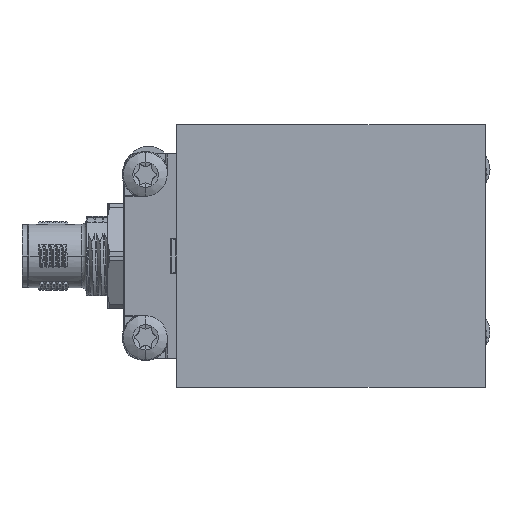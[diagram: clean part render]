
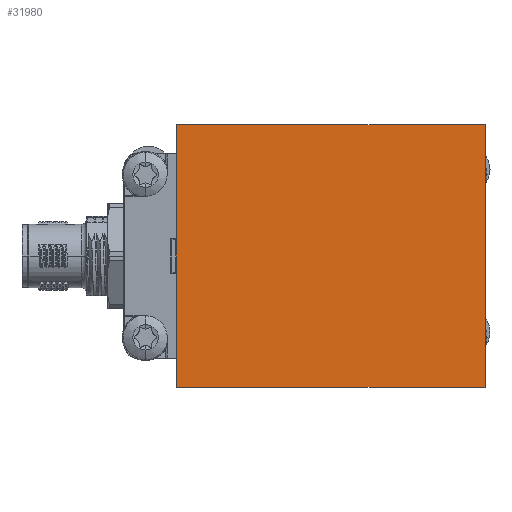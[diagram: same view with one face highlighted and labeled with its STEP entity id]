
A CAD part, front view. The second image highlights one B-rep face of the part: STEP entity #31980.
In plain terms, the highlighted planar face has unit normal (0, -1, 0).
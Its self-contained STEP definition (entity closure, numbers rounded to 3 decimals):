
#10841 = EDGE_CURVE ( 'NONE', #48390, #133676, #137222, .T. ) ;
#22002 = DIRECTION ( 'NONE',  ( 1., 0., 0. ) ) ;
#29240 = VECTOR ( 'NONE', #22002, 1000. ) ;
#31980 = ADVANCED_FACE ( 'NONE', ( #147541 ), #114185, .F. ) ;
#42443 = VECTOR ( 'NONE', #156688, 1000. ) ;
#45114 = DIRECTION ( 'NONE',  ( 0., 0., -1. ) ) ;
#48390 = VERTEX_POINT ( 'NONE', #177795 ) ;
#49680 = EDGE_CURVE ( 'NONE', #59518, #70307, #76582, .T. ) ;
#53101 = EDGE_LOOP ( 'NONE', ( #226360, #182090, #58178, #119235 ) ) ;
#58178 = ORIENTED_EDGE ( 'NONE', *, *, #143567, .F. ) ;
#59518 = VERTEX_POINT ( 'NONE', #119968 ) ;
#70307 = VERTEX_POINT ( 'NONE', #120919 ) ;
#76582 = LINE ( 'NONE', #128641, #29240 ) ;
#79877 = CARTESIAN_POINT ( 'NONE',  ( 0., -22.5, 22.5 ) ) ;
#90614 = CARTESIAN_POINT ( 'NONE',  ( 0., -22.5, -22.5 ) ) ;
#97823 = DIRECTION ( 'NONE',  ( 0., 0., 1. ) ) ;
#108609 = LINE ( 'NONE', #208867, #197907 ) ;
#114185 = PLANE ( 'NONE',  #219590 ) ;
#119235 = ORIENTED_EDGE ( 'NONE', *, *, #49680, .F. ) ;
#119968 = CARTESIAN_POINT ( 'NONE',  ( -53., -22.5, 22.5 ) ) ;
#120919 = CARTESIAN_POINT ( 'NONE',  ( 0., -22.5, 22.5 ) ) ;
#128641 = CARTESIAN_POINT ( 'NONE',  ( -54.414, -22.5, 22.5 ) ) ;
#131897 = DIRECTION ( 'NONE',  ( 0., 0., -1. ) ) ;
#133676 = VERTEX_POINT ( 'NONE', #90614 ) ;
#137222 = LINE ( 'NONE', #204319, #42443 ) ;
#143567 = EDGE_CURVE ( 'NONE', #70307, #133676, #108609, .T. ) ;
#147541 = FACE_OUTER_BOUND ( 'NONE', #53101, .T. ) ;
#156688 = DIRECTION ( 'NONE',  ( 1., 0., 0. ) ) ;
#171437 = VECTOR ( 'NONE', #131897, 1000. ) ;
#177795 = CARTESIAN_POINT ( 'NONE',  ( -53., -22.5, -22.5 ) ) ;
#182090 = ORIENTED_EDGE ( 'NONE', *, *, #10841, .T. ) ;
#197907 = VECTOR ( 'NONE', #45114, 1000. ) ;
#198890 = EDGE_CURVE ( 'NONE', #59518, #48390, #224473, .T. ) ;
#204319 = CARTESIAN_POINT ( 'NONE',  ( -54.414, -22.5, -22.5 ) ) ;
#204618 = DIRECTION ( 'NONE',  ( 0., 1., 0. ) ) ;
#208867 = CARTESIAN_POINT ( 'NONE',  ( 0., -22.5, 22.5 ) ) ;
#219590 = AXIS2_PLACEMENT_3D ( 'NONE', #79877, #204618, #97823 ) ;
#220824 = CARTESIAN_POINT ( 'NONE',  ( -53., -22.5, 22.5 ) ) ;
#224473 = LINE ( 'NONE', #220824, #171437 ) ;
#226360 = ORIENTED_EDGE ( 'NONE', *, *, #198890, .T. ) ;
